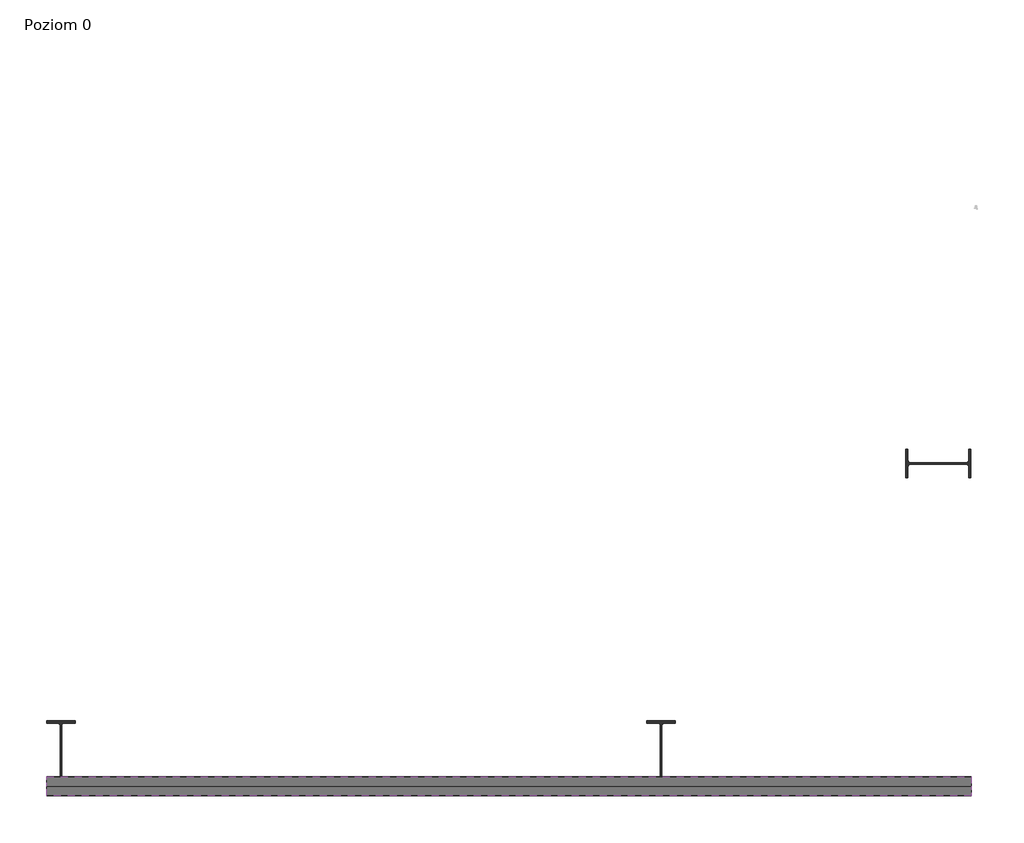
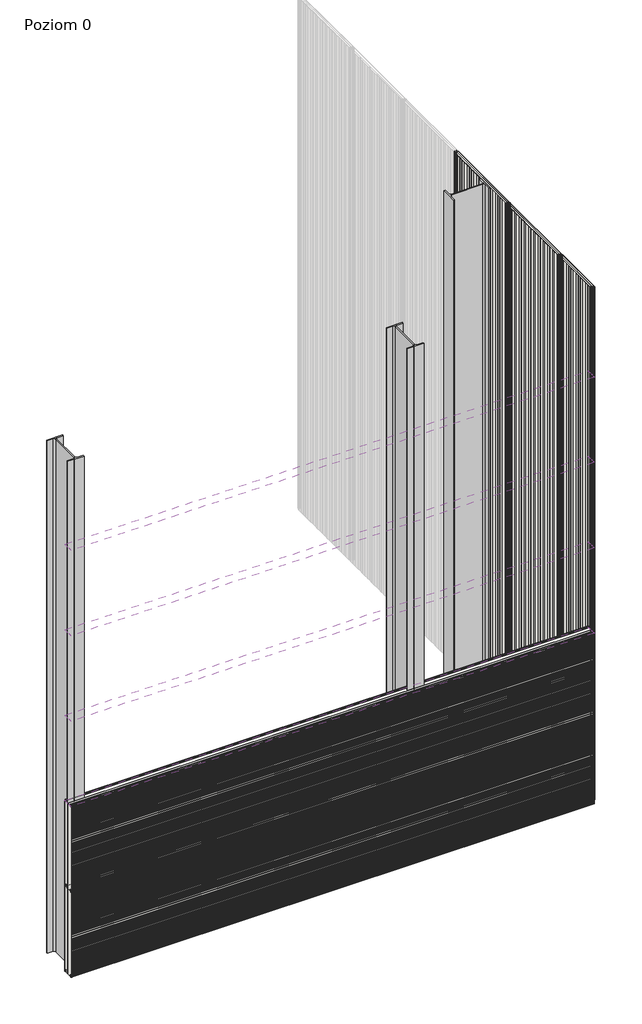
# One storey, part 1 of 3: 9 coverings, 3 columns.
"""IFC4 building model written with IfcOpenShell, lengths in millimetres."""

from ifc_helpers import new_model, si_unit, origin, place, context, project, spatial, transform, mapped, element, save
from components import standard1_standard_8d04f7a0, covering_55037079, covering_d70cc3ef, covering_4563f0d0, covering_5f1da1b8

model = new_model("IFC4")

# Units and contexts
model_context = context("Model", 3, world=origin())
ifc_project = project(units=[si_unit("LENGTHUNIT", "METRE", prefix="MILLI")], contexts=[model_context])

# Site, building, storey
site = spatial("IfcSite", under=ifc_project)
building = spatial("IfcBuilding", under=site)
storey = spatial("IfcBuildingStorey", under=building, Name="Poziom 0", Elevation=0.0)

# Columns
placement = place(None, origin())
standard1_standard_shape = standard1_standard_8d04f7a0(model_context)
element("IfcColumn", 1, ObjectType="Standard1 : Standard", at=placement, inside=storey, context=model_context, shape_type="MappedRepresentation", body=[
    mapped(standard1_standard_shape, transform((-652.7962443, -7493.6992704, 0.0), x_axis=(0.0, 1.0, 0.0), y_axis=(-1.0, 0.0, 0.0), z_axis=(0.0, 0.0, 1.0))),
])
element("IfcColumn", 2, ObjectType="Standard1 : Standard", at=placement, inside=storey, context=model_context, shape_type="MappedRepresentation", body=[
    mapped(standard1_standard_shape, transform((-6157.3962443, -9313.0059697, 0.0), x_axis=(1.0, 0.0, 0.0), y_axis=(0.0, 1.0, 0.0), z_axis=(0.0, 0.0, 1.0))),
])
element("IfcColumn", 3, ObjectType="Standard1 : Standard", at=placement, inside=storey, context=model_context, shape_type="MappedRepresentation", body=[
    mapped(standard1_standard_shape, transform((-2391.8962443, -9313.0059697, 0.0), x_axis=(1.0, 0.0, 0.0), y_axis=(0.0, 1.0, 0.0), z_axis=(0.0, 0.0, 1.0))),
])

# Coverings
covering_shape = covering_55037079(model_context)
element("IfcCovering", 4, ObjectType="Wall sandwich panel SPW-S CORE PIR (single sheet) : -", at=placement, inside=storey, context=model_context, shape_type="MappedRepresentation", body=[
    mapped(covering_shape, transform((-406.8962443, -6858.6992702, 6000.0), x_axis=(0.0, 1.0, 0.0), y_axis=(0.0, 0.0, 1.0), z_axis=(1.0, 0.0, 0.0))),
])
element("IfcCovering", 5, ObjectType="Wall sandwich panel SPW-S CORE PIR (single sheet) : -", at=placement, inside=storey, context=model_context, shape_type="MappedRepresentation", body=[
    mapped(covering_shape, transform((-406.8962443, -7858.6992702, 6000.0), x_axis=(0.0, 1.0, 0.0), y_axis=(0.0, 0.0, 1.0), z_axis=(1.0, 0.0, 0.0))),
])
covering_2_shape = covering_d70cc3ef(model_context)
covering_3_shape = covering_4563f0d0(model_context)
element("IfcCovering", 6, ObjectType="Wall sandwich panel SPW-S CORE PIR (single sheet) : -", at=placement, inside=storey, context=model_context, shape_type="MappedRepresentation", body=[
    mapped(covering_2_shape, transform((-6246.8962443, -9578.9059697, 1035.0), x_axis=(0.0, 0.0, 1.0), y_axis=(-1.0, 0.0, 0.0), z_axis=(0.0, -1.0, 0.0))),
    mapped(covering_3_shape, transform((-6246.8962443, -9578.9059697, 1035.0), x_axis=(0.0, 0.0, 1.0), y_axis=(-1.0, 0.0, 0.0), z_axis=(0.0, -1.0, 0.0))),
])
element("IfcCovering", 7, ObjectType="Wall sandwich panel SPW-S CORE PIR (single sheet) : -", at=placement, inside=storey, context=model_context, shape_type="MappedRepresentation", body=[
    mapped(covering_2_shape, transform((-6246.8962443, -9578.9059697, 2035.0), x_axis=(0.0, 0.0, 1.0), y_axis=(-1.0, 0.0, 0.0), z_axis=(0.0, -1.0, 0.0))),
    mapped(covering_3_shape, transform((-6246.8962443, -9578.9059697, 2035.0), x_axis=(0.0, 0.0, 1.0), y_axis=(-1.0, 0.0, 0.0), z_axis=(0.0, -1.0, 0.0))),
])
element("IfcCovering", 8, ObjectType="Wall sandwich panel SPW-S CORE PIR (single sheet) : -", at=placement, inside=storey, context=model_context, shape_type="MappedRepresentation", body=[
    mapped(covering_2_shape, transform((-6246.8962443, -9578.9059697, 3035.0), x_axis=(0.0, 0.0, 1.0), y_axis=(-1.0, 0.0, 0.0), z_axis=(0.0, -1.0, 0.0))),
    mapped(covering_3_shape, transform((-6246.8962443, -9578.9059697, 3035.0), x_axis=(0.0, 0.0, 1.0), y_axis=(-1.0, 0.0, 0.0), z_axis=(0.0, -1.0, 0.0))),
])
element("IfcCovering", 9, ObjectType="Wall sandwich panel SPW-S CORE PIR (single sheet) : -", at=placement, inside=storey, context=model_context, shape_type="MappedRepresentation", body=[
    mapped(covering_2_shape, transform((-6246.8962443, -9578.9059697, 4035.0), x_axis=(0.0, 0.0, 1.0), y_axis=(-1.0, 0.0, 0.0), z_axis=(0.0, -1.0, 0.0))),
    mapped(covering_3_shape, transform((-6246.8962443, -9578.9059697, 4035.0), x_axis=(0.0, 0.0, 1.0), y_axis=(-1.0, 0.0, 0.0), z_axis=(0.0, -1.0, 0.0))),
])
element("IfcCovering", 10, ObjectType="Wall sandwich panel SPW-S CORE PIR (single sheet) : -", at=placement, inside=storey, context=model_context, shape_type="MappedRepresentation", body=[
    mapped(covering_2_shape, transform((-6246.8962443, -9578.9059697, 5035.0), x_axis=(0.0, 0.0, 1.0), y_axis=(-1.0, 0.0, 0.0), z_axis=(0.0, -1.0, 0.0))),
    mapped(covering_3_shape, transform((-6246.8962443, -9578.9059697, 5035.0), x_axis=(0.0, 0.0, 1.0), y_axis=(-1.0, 0.0, 0.0), z_axis=(0.0, -1.0, 0.0))),
])
element("IfcCovering", 11, ObjectType="Wall sandwich panel SPW-S CORE PIR (single sheet) : -", at=placement, inside=storey, context=model_context, shape_type="MappedRepresentation", body=[
    mapped(covering_2_shape, transform((-6246.8962443, -9578.9059697, 6035.0), x_axis=(0.0, 0.0, 1.0), y_axis=(-1.0, 0.0, 0.0), z_axis=(0.0, -1.0, 0.0))),
    mapped(covering_3_shape, transform((-6246.8962443, -9578.9059697, 6035.0), x_axis=(0.0, 0.0, 1.0), y_axis=(-1.0, 0.0, 0.0), z_axis=(0.0, -1.0, 0.0))),
])
covering_4_shape = covering_5f1da1b8(model_context)
element("IfcCovering", 12, ObjectType="Wall sandwich panel SPW-S CORE PIR (single sheet) : -", at=placement, inside=storey, context=model_context, shape_type="MappedRepresentation", body=[
    mapped(covering_4_shape, transform((-406.8962443, -8858.6992704, 6000.0), x_axis=(0.0, 1.0, 0.0), y_axis=(0.0, 0.0, 1.0), z_axis=(1.0, 0.0, 0.0))),
])

save(model, "model.ifc")
